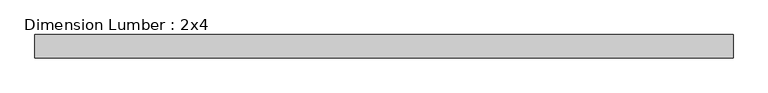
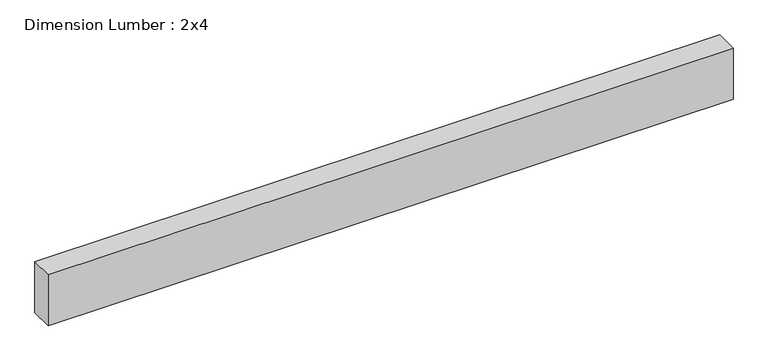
"""IFC4 building model written with IfcOpenShell, lengths in millimetres: beam geometry, Dimension Lumber : 2x4."""

import ifcopenshell
import ifcopenshell.guid

model = None  # the IFC model being written
_history = None  # IfcOwnerHistory: only IFC2X3 demands one
_inside = {}  # id of a spatial element -> (the spatial element, [elements in it])
_under = {}  # id of a project, library or spatial element -> (it, [spatial elements below it])
_declared = {}  # id of a project -> (the project, [libraries it declares])
_typed = {}  # id of a type object -> (the type object, [elements of that type])
_made_of = {}  # id of a material, layer set ... -> (it, [elements and type objects made of it])


def new_model(schema):
    """Start an empty IFC model of exactly this schema.

    Asked for "IFC4X3", IfcOpenShell would pick the latest addendum, in which some entities
    have other attributes; the version numbers below select the first issue.
    IFC2X3 requires an IfcOwnerHistory on every rooted entity: one is made here for all.
    """
    global model, _history
    if schema == "IFC4X3":
        model = ifcopenshell.file(schema_version=(4, 3, 0, 0))
    else:
        model = ifcopenshell.file(schema=schema)
    _inside.clear()
    _under.clear()
    _declared.clear()
    _typed.clear()
    _made_of.clear()
    _history = None
    if model.schema == "IFC2X3":
        org = make("IfcOrganization", Name="unknown")
        user = make(
            "IfcPersonAndOrganization",
            ThePerson=make("IfcPerson", FamilyName="unknown"),
            TheOrganization=org,
        )
        app = make(
            "IfcApplication",
            ApplicationDeveloper=org,
            Version="unknown",
            ApplicationFullName="unknown",
            ApplicationIdentifier="unknown",
        )
        _history = make(
            "IfcOwnerHistory",
            OwningUser=user,
            OwningApplication=app,
            ChangeAction="ADDED",
            CreationDate=0,
        )
    return model


def make(cls, **values):
    """One entity of the class cls with the attributes given. An attribute that is None is left unset."""
    return model.create_entity(
        cls, **{name: value for name, value in values.items() if value is not None}
    )


def rooted(cls, **values):
    """An entity with a GlobalId (a new one), such as an element, a storey or a relation."""
    return make(cls, GlobalId=ifcopenshell.guid.new(), OwnerHistory=_history, **values)


def si_unit(unit_type, name, prefix=None):
    """IfcSIUnit, for example si_unit("LENGTHUNIT", "METRE", prefix="MILLI")."""
    return make("IfcSIUnit", UnitType=unit_type, Prefix=prefix, Name=name)


def assignment(units):
    """IfcUnitAssignment: the units of a project."""
    return None if units is None else make("IfcUnitAssignment", Units=units)


def point(xyz):
    """IfcCartesianPoint."""
    return None if xyz is None else make("IfcCartesianPoint", Coordinates=xyz)


def direction(xyz):
    """IfcDirection."""
    return None if xyz is None else make("IfcDirection", DirectionRatios=xyz)


def frame(location, z_axis=None, x_axis=None):
    """IfcAxis2Placement3D, a coordinate frame: its origin and axes. An axis left out is left unset."""
    return make(
        "IfcAxis2Placement3D",
        Location=point(location),
        Axis=direction(z_axis),
        RefDirection=direction(x_axis),
    )


def origin():
    """The frame at (0, 0, 0) with its axes left unset."""
    return frame((0.0, 0.0, 0.0))


def place(relative_to, where):
    """IfcLocalPlacement: puts the frame where relative to a parent placement (None: the world)."""
    return make(
        "IfcLocalPlacement", PlacementRelTo=relative_to, RelativePlacement=where
    )


def context(
    kind, dimensions, precision=None, world=None, true_north=None, identifier=None
):
    """IfcGeometricRepresentationContext, for example the 3D "Model" context."""
    return make(
        "IfcGeometricRepresentationContext",
        ContextIdentifier=identifier,
        ContextType=kind,
        CoordinateSpaceDimension=dimensions,
        Precision=precision,
        WorldCoordinateSystem=world,
        TrueNorth=true_north,
    )


def project(units=None, contexts=None):
    """IfcProject with its units and contexts."""
    return rooted(
        "IfcProject",
        Name="project",
        RepresentationContexts=contexts,
        UnitsInContext=assignment(units),
    )


def spatial(cls, under=None, at=None, **own):
    """A site, building, storey or space (cls), placed at a placement, below another one or the project."""
    s = rooted(cls, ObjectPlacement=at, **own)
    if under is not None:
        _under.setdefault(under.id(), (under, []))[1].append(s)
    return s


def polyline(points):
    """IfcPolyline through the points."""
    return make("IfcPolyline", Points=[point(p) for p in points])


def outline(outer, holes=None, kind="AREA"):
    """IfcArbitraryClosedProfileDef: a profile drawn as a closed curve; with holes, ...WithVoids."""
    if holes is None:
        return make("IfcArbitraryClosedProfileDef", ProfileType=kind, OuterCurve=outer)
    return make(
        "IfcArbitraryProfileDefWithVoids",
        ProfileType=kind,
        OuterCurve=outer,
        InnerCurves=holes,
    )


def extrude(swept, where, along, depth):
    """IfcExtrudedAreaSolid: the profile swept, set in the frame where, extruded along a direction by depth."""
    return make(
        "IfcExtrudedAreaSolid",
        SweptArea=swept,
        Position=where,
        ExtrudedDirection=direction(along),
        Depth=depth,
    )


def shape(context_of_items, identifier, shape_type, items):
    """IfcShapeRepresentation: the items that make up one representation, for example the "Body"."""
    return make(
        "IfcShapeRepresentation",
        ContextOfItems=context_of_items,
        RepresentationIdentifier=identifier,
        RepresentationType=shape_type,
        Items=items,
    )


def source(mapping_origin, context_of_items, identifier, shape_type, items):
    """IfcRepresentationMap: a shape defined once, which mapped items show again and again."""
    return make(
        "IfcRepresentationMap",
        MappingOrigin=mapping_origin,
        MappedRepresentation=shape(context_of_items, identifier, shape_type, items),
    )


def transform(
    local_origin,
    x_axis=None,
    y_axis=None,
    z_axis=None,
    scale=None,
    scale2=None,
    scale3=None,
    uniform=True,
):
    """IfcCartesianTransformationOperator3D, or its non-uniform kind. x_axis, y_axis, z_axis: its Axis1, 2, 3."""
    if uniform:
        return make(
            "IfcCartesianTransformationOperator3D",
            Axis1=direction(x_axis),
            Axis2=direction(y_axis),
            LocalOrigin=point(local_origin),
            Scale=scale,
            Axis3=direction(z_axis),
        )
    return make(
        "IfcCartesianTransformationOperator3DnonUniform",
        Axis1=direction(x_axis),
        Axis2=direction(y_axis),
        LocalOrigin=point(local_origin),
        Scale=scale,
        Axis3=direction(z_axis),
        Scale2=scale2,
        Scale3=scale3,
    )


def mapped(mapping_source, mapping_target):
    """IfcMappedItem: shows the shape of a source again, moved by a transform."""
    return make(
        "IfcMappedItem", MappingSource=mapping_source, MappingTarget=mapping_target
    )


def made_of(thing, what):
    """Note that an element or type object is made of a material, layer set ...; save() writes the relation."""
    if what is not None:
        _made_of.setdefault(what.id(), (what, []))[1].append(thing)
    return thing


def element(
    cls,
    number,
    at=None,
    inside=None,
    cuts=None,
    type_object=None,
    material=None,
    context=None,
    identifier="Body",
    shape_type=None,
    held_by="IfcProductDefinitionShape",
    body=None,
    shapes=None,
    **own,
):
    """One element of the class cls, such as IfcWall. Its Tag is "e" and its number.

    at: its placement. inside: the storey or other place that contains it. cuts: it is an
    opening in that element (IfcRelVoidsElement). A single representation is given by context,
    identifier, shape_type and body (its items); several are given by shapes. held_by: the class
    of the entity that holds the representations. save() writes the other relations.
    """
    e = rooted(cls, Tag="e%d" % number, ObjectPlacement=at, **own)
    if body is not None:
        shapes = [shape(context, identifier, shape_type, body)]
    if shapes is not None:
        e.Representation = make(held_by, Representations=shapes)
    if inside is not None:
        _inside.setdefault(inside.id(), (inside, []))[1].append(e)
    if cuts is not None:
        rooted(
            "IfcRelVoidsElement", RelatingBuildingElement=cuts, RelatedOpeningElement=e
        )
    if type_object is not None:
        _typed.setdefault(type_object.id(), (type_object, []))[1].append(e)
    return made_of(e, material)


def aggregate(whole, parts):
    """IfcRelAggregates: a whole, such as a stair, and the parts it consists of."""
    return rooted("IfcRelAggregates", RelatingObject=whole, RelatedObjects=parts)


def save(model, path):
    """Write the relations noted so far, then the file.

    IfcRelAggregates (storeys below a building ...), IfcRelContainedInSpatialStructure (elements
    in a storey), IfcRelDefinesByType, IfcRelAssociatesMaterial and IfcRelDeclares: one each for
    every whole, place, type object, material and project.
    """
    for whole, parts in _under.values():
        aggregate(whole, parts)
    for where, things in _inside.values():
        rooted(
            "IfcRelContainedInSpatialStructure",
            RelatedElements=things,
            RelatingStructure=where,
        )
    for kind, things in _typed.values():
        rooted("IfcRelDefinesByType", RelatedObjects=things, RelatingType=kind)
    for what, things in _made_of.values():
        rooted("IfcRelAssociatesMaterial", RelatedObjects=things, RelatingMaterial=what)
    for by, libraries in _declared.values():
        rooted("IfcRelDeclares", RelatingContext=by, RelatedDefinitions=libraries)
    model.write(path)


def dimension_lumber_2x4_bb2ba64f(model_context):
    return source(origin(), model_context, "Body", "SweptSolid", [
        extrude(outline(polyline([(555.625, 19.05), (555.625, -19.05), (-574.6749994, -19.05), (-574.6749994, 19.05), (555.625, 19.05)])), frame((0.0, 0.0, -44.45), z_axis=(0.0, 0.0, 1.0), x_axis=(1.0, 0.0, 0.0)), (0.0, 0.0, 1.0), 88.9),
    ])


if __name__ == "__main__":
    model = new_model("IFC4")
    model_context = context("Model", 3, world=origin())
    ifc_project = project(units=[si_unit("LENGTHUNIT", "METRE", prefix="MILLI")], contexts=[model_context])
    site = spatial("IfcSite", under=ifc_project)
    building = spatial("IfcBuilding", under=site)
    placement = place(None, origin())
    dimension_lumber_2x4_shape = dimension_lumber_2x4_bb2ba64f(model_context)
    element("IfcBeam", 1, ObjectType="Dimension Lumber : 2x4", at=placement, inside=building, context=model_context, shape_type="MappedRepresentation", body=[
        mapped(dimension_lumber_2x4_shape, transform((0.0, 0.0, 0.0), x_axis=(1.0, 0.0, 0.0), y_axis=(0.0, 1.0, 0.0), z_axis=(0.0, 0.0, 1.0))),
    ])
    save(model, "model.ifc")
